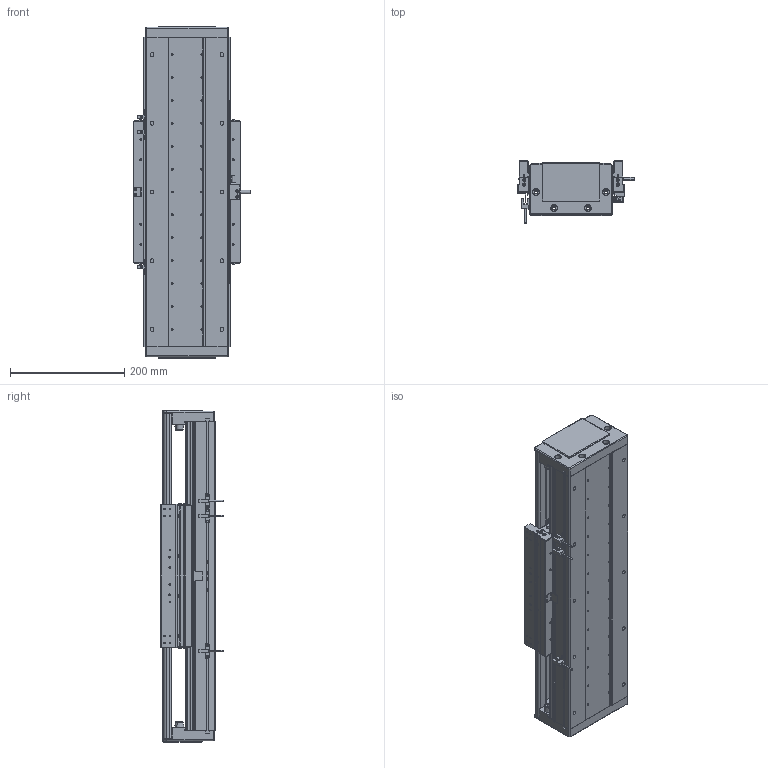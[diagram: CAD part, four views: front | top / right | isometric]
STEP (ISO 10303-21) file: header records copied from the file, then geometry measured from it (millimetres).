
FILE_DESCRIPTION (( 'STEP AP203' ), '1' );
FILE_NAME ('DA-C145-C3-T240-C010-0.2 眻盄萇儂.STEP', '2025-08-14T01:15:01', ( '' ), ( '' ), 'SwSTEP 2.0', 'SolidWorks 2019', '' );
FILE_SCHEMA (( 'CONFIG_CONTROL_DESIGN' ));
Length unit declared in the file: millimetre
Products named in the file (29): 葩璃 CKMA01-W060-TRL^DA-C145-C3-T-C010-0.2; 复件 纯铜油杯 6x6mm^CU145-W 滚珠滑台; 葩璃 DA145-C3-DP-B-00 菜えB^CU145-W 幗紩賑怢; 葩璃 DA95-HXJ-00 遣喳砎蝶^DA-C145-C3-T-C010-0.2; 葩璃 DMA-010-0.2 黍杅芛^DA-C145-C3-T-C010-0.2; 66245-CU145-HT-W-00 賑雄怢啣(3D芞祧)(00); 复件 DA95-HK-GT-00 滑块钢轨^CU145-W-00 一体化滑动台板; 葩璃 DA145-DG-H-N-00 傷裔^DA-C145-C3-T-C010-0.2; 复件 DA95-MFP-01 密封片^CU145-W 滚珠滑台; 葩璃 PM-T45^DA-C145-C3-T-C010-0.2; 葩璃 DA145-C3-DP-A-00 菜えA^CU145-W 幗紩賑怢; 葩璃 鞠褒情蹟譫 M3^DA-C145-C3-T-C010-0.2; CU145-W-00 珨极趙賑雄怢啣; CU145-W 幗紩賑怢; 复件 DA145-GYP-00 光电感应片^DA-C145-C3-T-C010-0.2; TAY01-M8; DA-C145-C3-T240-C010-0.2 眻盄萇儂; 复件 DA145-C3-DK-00 挡块^CU145-W 滚珠滑台; 复件 DA95-DB-00  挡板^CU145-W 滚珠滑台; 复件 内六角平端紧定螺钉 GB.T77-2000 M5×10^CU145-W 滚珠滑台; 复件 DA145-C3-YB-A-00 压板A^CU145-W 滚珠滑台; 葩璃 DA145-T-003-00 裔啣^DA-C145-C3-T-C010-0.2; IU-CU145-L-00 菁釱(L540); 葩璃 XD-U-02L 棠掑喜^DA-C145-C3-T-C010-0.2; IU-CU145-L 菁釱絳寢; 复件 DA145-C3-YB-B-00 压板B^CU145-W 滚珠滑台; 葩璃 CKM03-W060-C1C2-TP-0.2^DA-C145-C3-T-C010-0.2; 葩璃 DA95-GT-T-00^IU-CU145-L 菁釱絳寢; 复件 半圆头内六角螺钉 M3×6^CU145-W 滚珠滑台
Assembly tree (98 placements, depth 4):
  DA-C145-C3-T240-C010-0.2 眻盄萇儂
    IU-CU145-L 菁釱絳寢
      IU-CU145-L-00 菁釱(L540)
      葩璃 DA95-GT-T-00^IU-CU145-L 菁釱絳寢  x4
    CU145-W 幗紩賑怢
      CU145-W-00 珨极趙賑雄怢啣
        66245-CU145-HT-W-00 賑雄怢啣(3D芞祧)(00)
        复件 DA95-HK-GT-00 滑块钢轨^CU145-W-00 一体化滑动台板  x8
      复件 DA95-MFP-01 密封片^CU145-W 滚珠滑台  x8
      复件 DA95-DB-00  挡板^CU145-W 滚珠滑台  x8
      复件 内六角平端紧定螺钉 GB.T77-2000 M5×10^CU145-W 滚珠滑台  x4
      复件 纯铜油杯 6x6mm^CU145-W 滚珠滑台  x4
      复件 半圆头内六角螺钉 M3×6^CU145-W 滚珠滑台  x16
      复件 DA145-C3-DK-00 挡块^CU145-W 滚珠滑台  x4
      葩璃 DA145-C3-DP-B-00 菜えB^CU145-W 幗紩賑怢  x2
      复件 DA145-C3-YB-B-00 压板B^CU145-W 滚珠滑台  x2
      葩璃 DA145-C3-DP-A-00 菜えA^CU145-W 幗紩賑怢  x3
      复件 DA145-C3-YB-A-00 压板A^CU145-W 滚珠滑台  x3
      TAY01-M8  x4
    葩璃 CKMA01-W060-TRL^DA-C145-C3-T-C010-0.2
    葩璃 PM-T45^DA-C145-C3-T-C010-0.2  x3
    葩璃 XD-U-02L 棠掑喜^DA-C145-C3-T-C010-0.2
    葩璃 DA145-DG-H-N-00 傷裔^DA-C145-C3-T-C010-0.2  x2
    葩璃 DA145-T-003-00 裔啣^DA-C145-C3-T-C010-0.2
    葩璃 DA95-HXJ-00 遣喳砎蝶^DA-C145-C3-T-C010-0.2  x4
    复件 DA145-GYP-00 光电感应片^DA-C145-C3-T-C010-0.2
    葩璃 DMA-010-0.2 黍杅芛^DA-C145-C3-T-C010-0.2
    葩璃 CKM03-W060-C1C2-TP-0.2^DA-C145-C3-T-C010-0.2
    葩璃 鞠褒情蹟譫 M3^DA-C145-C3-T-C010-0.2  x8
Bounding box: 203.5 x 108.45 x 580 mm (x, y, z)
Volume: 4834623.4 mm3; surface area: 1304444.2 mm2
Topology: 95 solids, 127 shells, 3769 faces, 9741 edges, 5972 vertices
Faces by surface type: plane 1567, cylinder 1486, cone 626, torus 86, sphere 4
Entity records: 79555 total; most frequent: CARTESIAN_POINT 18066, DIRECTION 12107, ORIENTED_EDGE 11480, EDGE_CURVE 5740, AXIS2_PLACEMENT_3D 4486, VERTEX_POINT 3661, VECTOR 3135, LINE 3135
